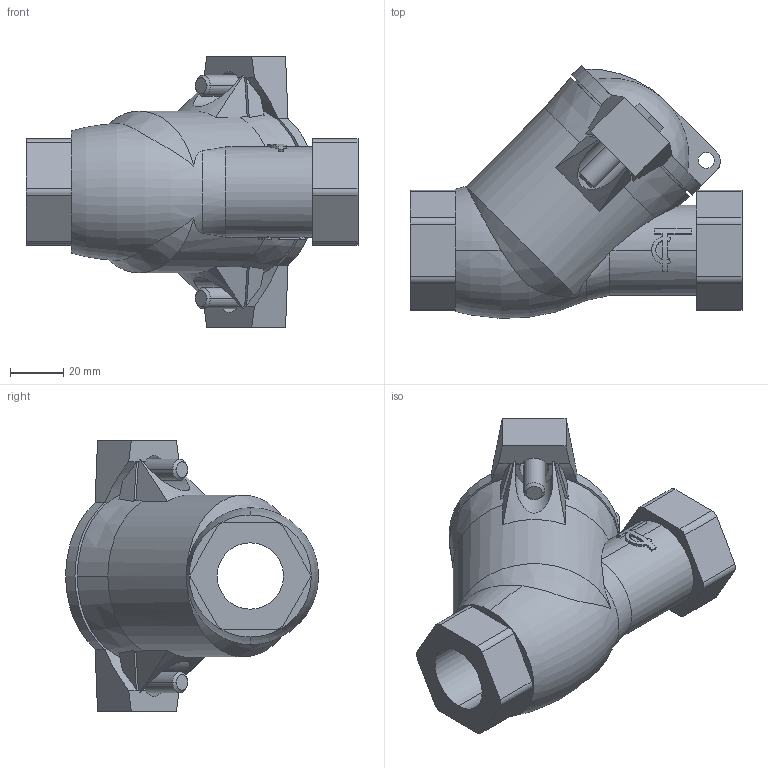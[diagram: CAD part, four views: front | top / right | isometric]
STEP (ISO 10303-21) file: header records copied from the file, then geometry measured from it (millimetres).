
FILE_DESCRIPTION (( 'STEP AP203' ), '1' );
FILE_NAME ('DN 25.STEP', '2010-05-12T09:07:46', ( 'farex' ), ( '' ), 'SwSTEP 2.0', 'SolidWorks 2009', '' );
FILE_SCHEMA (( 'CONFIG_CONTROL_DESIGN' ));
Length unit declared in the file: millimetre
Products named in the file (1): DN 25
Bounding box: 125 x 95.18 x 102 mm (x, y, z)
Volume: 287586.7 mm3; surface area: 48496.3 mm2
Topology: 1 solids, 1 shells, 213 faces, 618 edges, 409 vertices
Faces by surface type: plane 102, cylinder 54, bspline 42, cone 10, torus 3, sphere 2
Entity records: 8613 total; most frequent: CARTESIAN_POINT 3313, ORIENTED_EDGE 1236, DIRECTION 895, EDGE_CURVE 618, VERTEX_POINT 409, AXIS2_PLACEMENT_3D 322, VECTOR 251, LINE 251
